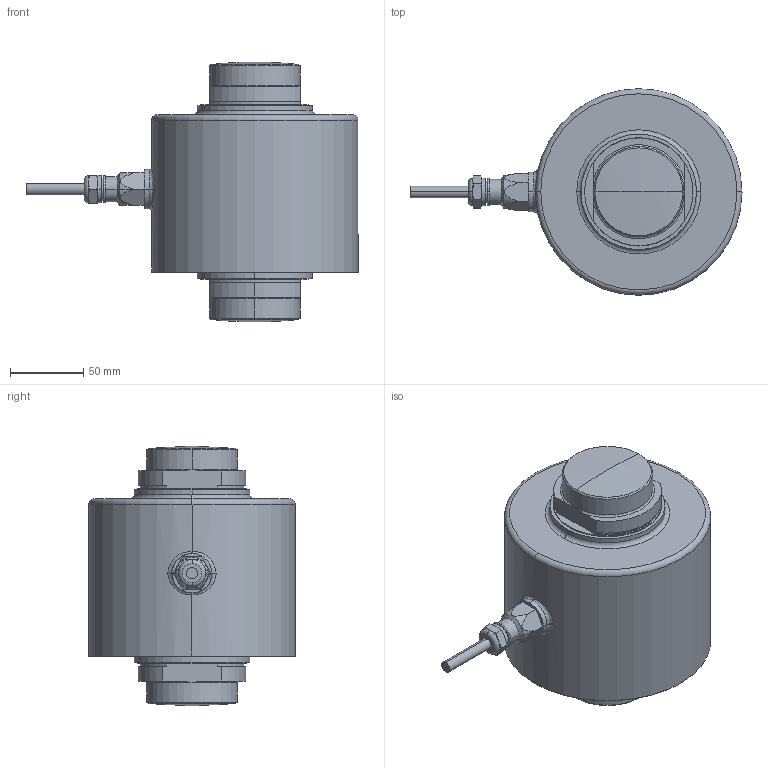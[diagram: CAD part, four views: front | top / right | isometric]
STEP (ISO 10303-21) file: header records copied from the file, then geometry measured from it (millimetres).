
FILE_DESCRIPTION (( 'STEP AP214' ), '1' );
FILE_NAME ('SM63-100t.STEP', '2020-11-02T09:03:50', ( '' ), ( '' ), 'SwSTEP 2.0', 'SolidWorks 2019', '' );
FILE_SCHEMA (( 'AUTOMOTIVE_DESIGN' ));
Length unit declared in the file: millimetre
Products named in the file (2): SM63-100t
Bounding box: 227.32 x 141.3 x 177.8 mm (x, y, z)
Surface area: 103300 mm2 (no closed solid volume)
Topology: 0 solids, 4 shells, 124 faces, 303 edges, 194 vertices
Faces by surface type: plane 42, cylinder 34, torus 24, cone 12, sphere 8, bspline 4
Entity records: 5255 total; most frequent: CARTESIAN_POINT 2316, DIRECTION 618, ORIENTED_EDGE 602, EDGE_CURVE 303, AXIS2_PLACEMENT_3D 256, VERTEX_POINT 194, CIRCLE 134, EDGE_LOOP 133
